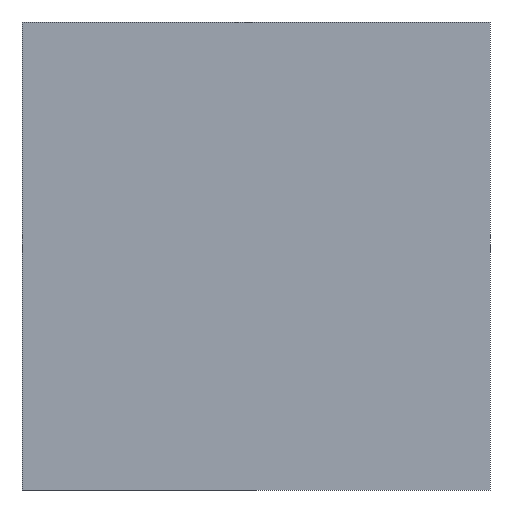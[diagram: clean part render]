
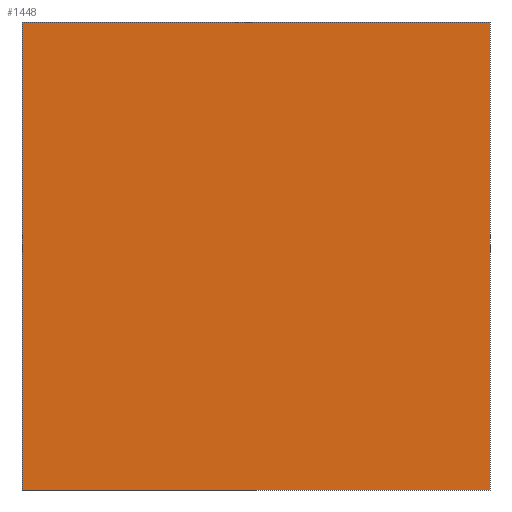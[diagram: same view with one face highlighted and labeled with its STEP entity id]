
A CAD part, front view. The second image highlights one B-rep face of the part: STEP entity #1448.
In plain terms, the highlighted planar face has unit normal (0, -1, 0).
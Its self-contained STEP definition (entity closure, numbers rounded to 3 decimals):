
#8 = EDGE_CURVE ( 'NONE', #550, #1206, #48, .T. ) ;
#48 = LINE ( 'NONE', #54, #921 ) ;
#54 = CARTESIAN_POINT ( 'NONE',  ( -900., 0., 900. ) ) ;
#133 = DIRECTION ( 'NONE',  ( 1., 0., 0. ) ) ;
#154 = LINE ( 'NONE', #797, #1038 ) ;
#301 = ORIENTED_EDGE ( 'NONE', *, *, #8, .T. ) ;
#316 = DIRECTION ( 'NONE',  ( -1., 0., 0. ) ) ;
#327 = CARTESIAN_POINT ( 'NONE',  ( 0., 0., 900. ) ) ;
#357 = FACE_OUTER_BOUND ( 'NONE', #1520, .T. ) ;
#372 = CARTESIAN_POINT ( 'NONE',  ( 0., 0., 900. ) ) ;
#421 = CARTESIAN_POINT ( 'NONE',  ( 0., 0., 0. ) ) ;
#550 = VERTEX_POINT ( 'NONE', #976 ) ;
#565 = DIRECTION ( 'NONE',  ( -1., 0., 0. ) ) ;
#697 = LINE ( 'NONE', #1452, #1269 ) ;
#797 = CARTESIAN_POINT ( 'NONE',  ( 0., 0., 0. ) ) ;
#890 = DIRECTION ( 'NONE',  ( 0., -1., 0. ) ) ;
#902 = LINE ( 'NONE', #1028, #1516 ) ;
#921 = VECTOR ( 'NONE', #936, 1000. ) ;
#936 = DIRECTION ( 'NONE',  ( 0., 0., -1. ) ) ;
#976 = CARTESIAN_POINT ( 'NONE',  ( -900., 0., 900. ) ) ;
#984 = EDGE_CURVE ( 'NONE', #1555, #1206, #154, .T. ) ;
#1028 = CARTESIAN_POINT ( 'NONE',  ( 0., 0., 900. ) ) ;
#1038 = VECTOR ( 'NONE', #316, 1000. ) ;
#1072 = EDGE_CURVE ( 'NONE', #1153, #550, #697, .T. ) ;
#1153 = VERTEX_POINT ( 'NONE', #327 ) ;
#1206 = VERTEX_POINT ( 'NONE', #1656 ) ;
#1237 = ORIENTED_EDGE ( 'NONE', *, *, #984, .F. ) ;
#1269 = VECTOR ( 'NONE', #565, 1000. ) ;
#1377 = AXIS2_PLACEMENT_3D ( 'NONE', #372, #890, #133 ) ;
#1420 = PLANE ( 'NONE',  #1377 ) ;
#1428 = EDGE_CURVE ( 'NONE', #1153, #1555, #902, .T. ) ;
#1448 = ADVANCED_FACE ( 'NONE', ( #357 ), #1420, .T. ) ;
#1452 = CARTESIAN_POINT ( 'NONE',  ( 0., 0., 900. ) ) ;
#1478 = ORIENTED_EDGE ( 'NONE', *, *, #1072, .T. ) ;
#1516 = VECTOR ( 'NONE', #1540, 1000. ) ;
#1520 = EDGE_LOOP ( 'NONE', ( #1237, #1700, #1478, #301 ) ) ;
#1540 = DIRECTION ( 'NONE',  ( 0., 0., -1. ) ) ;
#1555 = VERTEX_POINT ( 'NONE', #421 ) ;
#1656 = CARTESIAN_POINT ( 'NONE',  ( -900., 0., 0. ) ) ;
#1700 = ORIENTED_EDGE ( 'NONE', *, *, #1428, .F. ) ;
